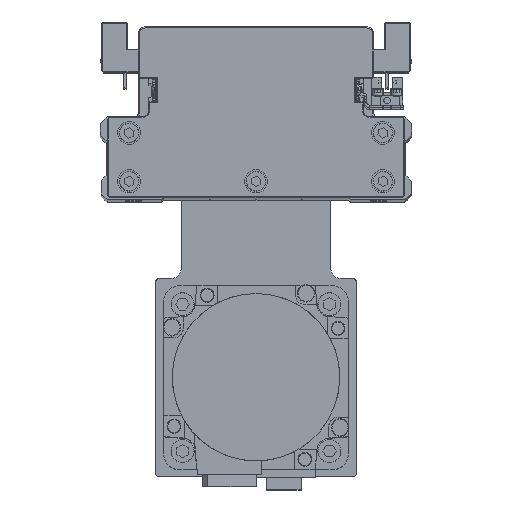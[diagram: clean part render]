
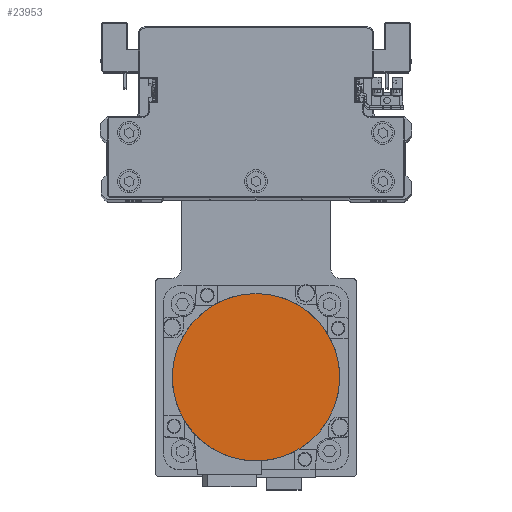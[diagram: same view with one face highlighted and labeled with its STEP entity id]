
A CAD part, top view. The second image highlights one B-rep face of the part: STEP entity #23953.
In plain terms, the highlighted planar face has unit normal (0, 0, 1) as drawn and (0, 0, -1) by its records, which use the part's own axes.
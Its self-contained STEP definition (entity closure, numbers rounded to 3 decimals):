
#4487 = VERTEX_POINT ( 'NONE', #32889 ) ;
#6576 = CARTESIAN_POINT ( 'NONE',  ( 0., 0., -122.2 ) ) ;
#7382 = VERTEX_POINT ( 'NONE', #27762 ) ;
#7668 = DIRECTION ( 'NONE',  ( 0., 0., 1. ) ) ;
#9357 = CIRCLE ( 'NONE', #31787, 36.3 ) ;
#9685 = EDGE_CURVE ( 'NONE', #7382, #4487, #9357, .T. ) ;
#10334 = DIRECTION ( 'NONE',  ( 0., 1., 0. ) ) ;
#10715 = FACE_OUTER_BOUND ( 'NONE', #29384, .T. ) ;
#10921 = EDGE_CURVE ( 'NONE', #4487, #7382, #14591, .T. ) ;
#14591 = CIRCLE ( 'NONE', #36992, 36.3 ) ;
#18881 = DIRECTION ( 'NONE',  ( 0., 0., 1. ) ) ;
#19969 = DIRECTION ( 'NONE',  ( 1., 0., 0. ) ) ;
#23010 = PLANE ( 'NONE',  #24316 ) ;
#23953 = ADVANCED_FACE ( 'NONE', ( #10715 ), #23010, .F. ) ;
#24316 = AXIS2_PLACEMENT_3D ( 'NONE', #35173, #7668, #19969 ) ;
#25641 = CARTESIAN_POINT ( 'NONE',  ( 0., 0., -122.2 ) ) ;
#27762 = CARTESIAN_POINT ( 'NONE',  ( 0., 36.3, -122.2 ) ) ;
#29384 = EDGE_LOOP ( 'NONE', ( #39140, #34198 ) ) ;
#31107 = DIRECTION ( 'NONE',  ( 0., -1., 0. ) ) ;
#31787 = AXIS2_PLACEMENT_3D ( 'NONE', #25641, #37804, #10334 ) ;
#32889 = CARTESIAN_POINT ( 'NONE',  ( 0., -36.3, -122.2 ) ) ;
#34198 = ORIENTED_EDGE ( 'NONE', *, *, #10921, .F. ) ;
#35173 = CARTESIAN_POINT ( 'NONE',  ( 0., 0., -122.2 ) ) ;
#36992 = AXIS2_PLACEMENT_3D ( 'NONE', #6576, #18881, #31107 ) ;
#37804 = DIRECTION ( 'NONE',  ( 0., 0., 1. ) ) ;
#39140 = ORIENTED_EDGE ( 'NONE', *, *, #9685, .F. ) ;
